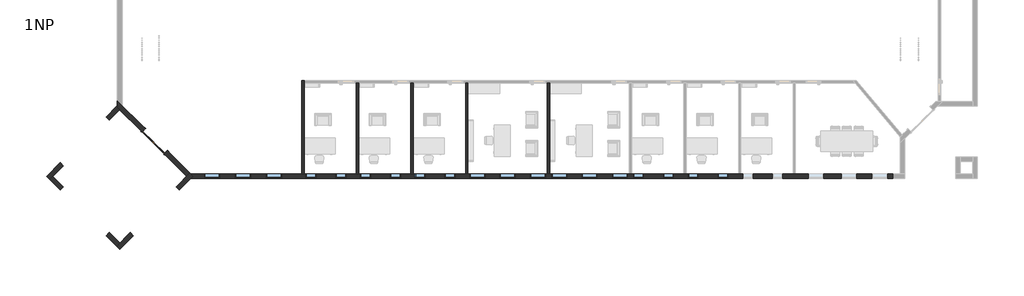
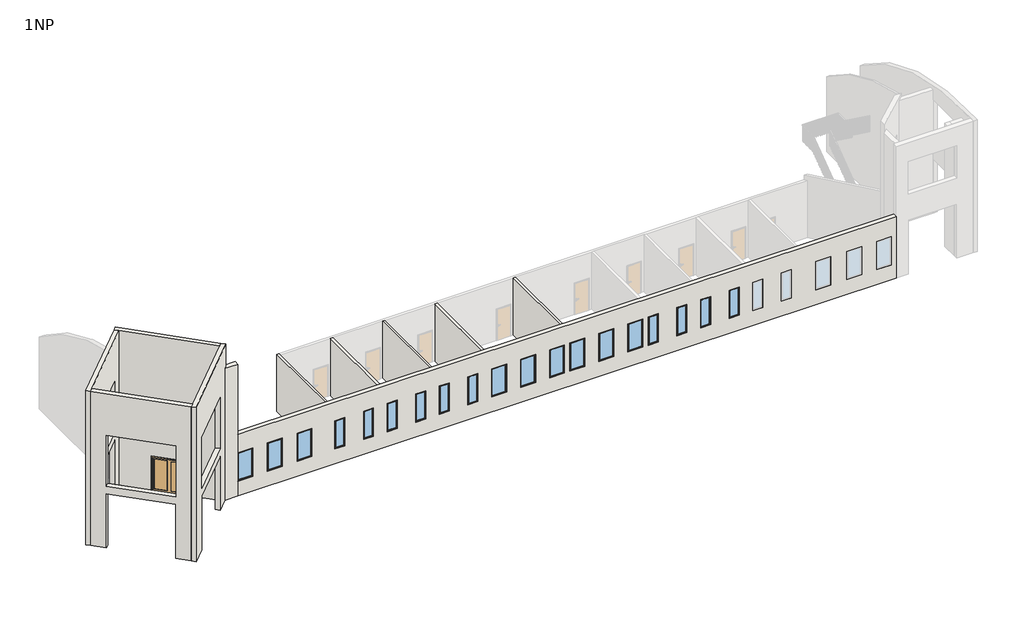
# One storey, part 1 of 3: 19 windows, 11 walls, 1 door.
"""IFC4 building model written with IfcOpenShell, lengths in millimetres."""

from ifc_helpers import new_model, si_unit, frame, origin, origin_with_axes, place, context, project, spatial, polyline, circle_curve, ellipse_curve, outline, extrude, faceted_brep, transform, mapped, element, save
from ifc_brep_helpers import plane_surface, cylinder_surface, advanced_brep
from components import door_1800_x_1970mm_ce9160c6, window_0610_x_1830mm_aeee110f, window_0915_x_1830mm_7ee91fd3

model = new_model("IFC4")

# Units and contexts
model_context = context("Model", 3, world=origin())
ifc_project = project(units=[si_unit("LENGTHUNIT", "METRE", prefix="MILLI")], contexts=[model_context])

# Site, building, storey
site = spatial("IfcSite", under=ifc_project)
building = spatial("IfcBuilding", under=site)
storey = spatial("IfcBuildingStorey", under=building, Name="1NP", Elevation=0.0)

# Door
placement = place(None, origin())
door_1800_x_1970mm_shape = door_1800_x_1970mm_ce9160c6(model_context)
element("IfcDoor", 1, ObjectType="Dvoukridle prosklene : 1800 x 1970mm", at=placement, inside=storey, context=model_context, shape_type="MappedRepresentation", body=[
    mapped(door_1800_x_1970mm_shape, transform((-9492.0310093, -2706.151406, 0.0), x_axis=(-0.7071067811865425, 0.7071067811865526, 0.0), y_axis=(-0.7071067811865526, -0.7071067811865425, 0.0), z_axis=(0.0, 0.0, 1.0))),
])

# Walls
element("IfcWall", 2, ObjectType="Exterior - EIFS on Mtl. Stud", at=placement, inside=storey, context=model_context, shape_type="AdvancedBrep", body=[
    advanced_brep(
    [(-6587.8076313, -4624.9448694, 0.0), (-7387.8076313, -4624.9448694, 0.0), (-7387.8076313, -4624.9448694, 8556.4380679), (-6587.8076313, -4624.9448694, 8556.4380679), (-6587.8076313, -4624.9448694, 8000.0), (-6587.8076313, -4624.9448694, 4000.0), (-6587.8076313, -4624.9448694, 2800.0), (-6595.0744727, -4624.9448694, 2800.0), (-6595.0744727, -4624.9448694, 970.0), (-6587.8076313, -4624.9448694, 970.0), (-7387.8076313, -4891.9448694, 0.0), (-6587.8076313, -4891.9448694, 0.0), (-6587.8076313, -4891.9448694, 970.0), (-6595.0744727, -4891.9448694, 970.0), (-6595.0744727, -4891.9448694, 2800.0), (-6587.8076313, -4891.9448694, 2800.0), (-6587.8076313, -4891.9448694, 4000.0), (-6587.8076313, -4891.9448694, 8000.0), (-6587.8076313, -4891.9448694, 8541.7849302), (-7387.8076313, -4891.9448694, 8541.7849302), (-7254.3076313, -4758.4448694, 0.0), (-7254.3076313, -4758.4448694, 8549.6141311)],
    [
        (0, 1),
        (1, 2),
        (2, 3),
        (3, 4),
        (4, 5),
        (5, 6),
        (6, 7),
        (7, 8),
        (8, 9),
        (9, 0),
        (10, 11),
        (11, 12),
        (12, 13),
        (13, 14),
        (14, 15),
        (15, 16),
        (16, 17),
        (17, 18),
        (18, 19),
        (19, 10),
        (0, 11),
        (10, 20),
        (20, 1),
        (9, 12),
        (3, 18, circle_curve(frame((-6587.8076313, -3782.5530793, -9232.9575956), z_axis=(1.0, 0.0, 0.0), x_axis=(0.0, -1.0, 0.0)), 17809.3296337)),
        (15, 6),
        (20, 21),
        (21, 2, ellipse_curve(frame((-8230.1994214, -3782.5530793, -9232.9575956), z_axis=(-0.7071067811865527, -0.7071067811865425, 0.0), x_axis=(0.7071067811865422, -0.7071067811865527, 0.0)), 25186.1955048, 17809.3296337)),
        (19, 21, ellipse_curve(frame((-6278.4158411, -3782.5530793, -9232.9575956), z_axis=(-0.7071067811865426, 0.7071067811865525, 0.0), x_axis=(0.7071067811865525, 0.7071067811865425, 0.0)), 25186.1955048, 17809.3296337)),
        (14, 7),
        (13, 8),
    ],
    [
        plane_surface(frame((12455.6755273, -4624.9448694, 0.0), z_axis=(0.0, 1.0, 0.0), x_axis=(-1.0, 0.0, 0.0))),
        plane_surface(frame((12455.6755273, -4891.9448694, 0.0), z_axis=(0.0, -1.0, 0.0), x_axis=(1.0, 0.0, 0.0))),
        plane_surface(frame((-6587.8076313, -4624.9448694, 0.0), z_axis=(0.0, 0.0, -1.0), x_axis=(0.0, -1.0, 0.0))),
        plane_surface(frame((-6587.8076313, -4624.9448694, 4000.0), z_axis=(1.0, 0.0, 0.0), x_axis=(0.0, -1.0, 0.0))),
        plane_surface(frame((-9352.1166743, -2660.6358263, -200.0), z_axis=(-0.7071067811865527, -0.7071067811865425, 0.0), x_axis=(0.7071067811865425, -0.7071067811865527, 0.0))),
        plane_surface(frame((-9352.1166743, -6856.2539125, -200.0), z_axis=(-0.7071067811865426, 0.7071067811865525, 0.0), x_axis=(-0.7071067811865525, -0.7071067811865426, 0.0))),
        cylinder_surface(frame((39922.6755273, -3782.5530793, -9232.9575956), z_axis=(1.0, 0.0, 0.0), x_axis=(0.0, -1.0, 0.0)), 17809.3296337),
        plane_surface(frame((-5680.0744727, -6148.9448694, 2800.0), z_axis=(0.0, 0.0, -1.0), x_axis=(0.0, 1.0, 0.0))),
        plane_surface(frame((-6595.0744727, -6148.9448694, 2800.0), z_axis=(1.0, 0.0, 0.0), x_axis=(0.0, 1.0, 0.0))),
        plane_surface(frame((-6595.0744727, -6148.9448694, 970.0), z_axis=(0.0, 0.0, 1.0), x_axis=(0.0, 1.0, 0.0))),
    ],
    [
        (0, [[1, 2, 3, 4, 5, 6, 7, 8, 9, 10]]),
        (1, [[11, 12, 13, 14, 15, 16, 17, 18, 19, 20]]),
        (2, [[-1, 21, -11, 22, 23]]),
        (3, [[-21, -10, 24, -12]]),
        (3, [[25, -18, -17, -16, 26, -6, -5, -4]]),
        (4, [[-2, -23, 27, 28]]),
        (5, [[-20, 29, -27, -22]]),
        (6, [[-3, -28, -29, -19, -25]]),
        (7, [[30, -7, -26, -15]]),
        (8, [[-30, -14, 31, -8]]),
        (9, [[-31, -13, -24, -9]]),
    ],
),
])
element("IfcWall", 3, ObjectType="Exterior - EIFS on Mtl. Stud", at=placement, inside=storey, context=model_context, shape_type="Brep", body=[
    faceted_brep([(33755.6755273, -4624.9448694, 0.0), (28058.4255273, -4624.9448694, 0.0), (27919.9255273, -4624.9448694, 0.0), (24858.4255273, -4624.9448694, 0.0), (24719.9255273, -4624.9448694, 0.0), (21658.4255273, -4624.9448694, 0.0), (21519.9255273, -4624.9448694, 0.0), (18458.4255273, -4624.9448694, 0.0), (18319.9255273, -4624.9448694, 0.0), (13658.4255273, -4624.9448694, 0.0), (13519.9255273, -4624.9448694, 0.0), (8858.4255273, -4624.9448694, 0.0), (8719.9255273, -4624.9448694, 0.0), (5658.4255273, -4624.9448694, 0.0), (5519.9255273, -4624.9448694, 0.0), (2458.4255273, -4624.9448694, 0.0), (2319.9255273, -4624.9448694, 0.0), (-741.5744727, -4624.9448694, 0.0), (-880.0744727, -4624.9448694, 0.0), (-6587.8076313, -4624.9448694, 0.0), (-6587.8076313, -4624.9448694, 970.0), (-5680.0744727, -4624.9448694, 970.0), (-5680.0744727, -4624.9448694, 2800.0), (-6587.8076313, -4624.9448694, 2800.0), (-6587.8076313, -4624.9448694, 4000.0), (33755.6755273, -4624.9448694, 4000.0), (33455.6755273, -4624.9448694, 970.0), (33455.6755273, -4624.9448694, 2800.0), (32540.6755273, -4624.9448694, 2800.0), (32540.6755273, -4624.9448694, 970.0), (31640.6755273, -4624.9448694, 970.0), (31640.6755273, -4624.9448694, 2800.0), (30725.6755273, -4624.9448694, 2800.0), (30725.6755273, -4624.9448694, 970.0), (29725.6755273, -4624.9448694, 970.0), (29725.6755273, -4624.9448694, 2800.0), (28810.6755273, -4624.9448694, 2800.0), (28810.6755273, -4624.9448694, 970.0), (-3865.0744727, -4624.9448694, 970.0), (-3865.0744727, -4624.9448694, 2800.0), (-4780.0744727, -4624.9448694, 2800.0), (-4780.0744727, -4624.9448694, 970.0), (-2050.0744727, -4624.9448694, 970.0), (-2050.0744727, -4624.9448694, 2800.0), (-2965.0744727, -4624.9448694, 2800.0), (-2965.0744727, -4624.9448694, 970.0), (-31.5744727, -4624.9448694, 970.0), (-31.5744727, -4624.9448694, 2800.0), (-641.5744727, -4624.9448694, 2800.0), (-641.5744727, -4624.9448694, 970.0), (1719.9255273, -4624.9448694, 970.0), (1719.9255273, -4624.9448694, 2800.0), (1109.9255273, -4624.9448694, 2800.0), (1109.9255273, -4624.9448694, 970.0), (3168.4255273, -4624.9448694, 970.0), (3168.4255273, -4624.9448694, 2800.0), (2558.4255273, -4624.9448694, 2800.0), (2558.4255273, -4624.9448694, 970.0), (4919.9255273, -4624.9448694, 970.0), (4919.9255273, -4624.9448694, 2800.0), (4309.9255273, -4624.9448694, 2800.0), (4309.9255273, -4624.9448694, 970.0), (25568.4255273, -4624.9448694, 970.0), (25568.4255273, -4624.9448694, 2800.0), (24958.4255273, -4624.9448694, 2800.0), (24958.4255273, -4624.9448694, 970.0), (27319.9255273, -4624.9448694, 970.0), (27319.9255273, -4624.9448694, 2800.0), (26709.9255273, -4624.9448694, 2800.0), (26709.9255273, -4624.9448694, 970.0), (22368.4255273, -4624.9448694, 970.0), (22368.4255273, -4624.9448694, 2800.0), (21758.4255273, -4624.9448694, 2800.0), (21758.4255273, -4624.9448694, 970.0), (24119.9255273, -4624.9448694, 970.0), (24119.9255273, -4624.9448694, 2800.0), (23509.9255273, -4624.9448694, 2800.0), (23509.9255273, -4624.9448694, 970.0), (19168.4255273, -4624.9448694, 970.0), (19168.4255273, -4624.9448694, 2800.0), (18558.4255273, -4624.9448694, 2800.0), (18558.4255273, -4624.9448694, 970.0), (20919.9255273, -4624.9448694, 970.0), (20919.9255273, -4624.9448694, 2800.0), (20309.9255273, -4624.9448694, 2800.0), (20309.9255273, -4624.9448694, 970.0), (9873.4255273, -4624.9448694, 970.0), (9873.4255273, -4624.9448694, 2800.0), (8958.4255273, -4624.9448694, 2800.0), (8958.4255273, -4624.9448694, 970.0), (11646.6755273, -4624.9448694, 970.0), (11646.6755273, -4624.9448694, 2800.0), (10731.6755273, -4624.9448694, 2800.0), (10731.6755273, -4624.9448694, 970.0), (6368.4255273, -4624.9448694, 970.0), (6368.4255273, -4624.9448694, 2800.0), (5758.4255273, -4624.9448694, 2800.0), (5758.4255273, -4624.9448694, 970.0), (8119.9255273, -4624.9448694, 970.0), (8119.9255273, -4624.9448694, 2800.0), (7509.9255273, -4624.9448694, 2800.0), (7509.9255273, -4624.9448694, 970.0), (13419.9255273, -4624.9448694, 970.0), (13419.9255273, -4624.9448694, 2800.0), (12504.9255273, -4624.9448694, 2800.0), (12504.9255273, -4624.9448694, 970.0), (14673.4255273, -4624.9448694, 970.0), (14673.4255273, -4624.9448694, 2800.0), (13758.4255273, -4624.9448694, 2800.0), (13758.4255273, -4624.9448694, 970.0), (16446.6755273, -4624.9448694, 970.0), (16446.6755273, -4624.9448694, 2800.0), (15531.6755273, -4624.9448694, 2800.0), (15531.6755273, -4624.9448694, 970.0), (18219.9255273, -4624.9448694, 970.0), (18219.9255273, -4624.9448694, 2800.0), (17304.9255273, -4624.9448694, 2800.0), (17304.9255273, -4624.9448694, 970.0), (-6587.8076313, -4891.9448694, 0.0), (33755.6755273, -4891.9448694, 0.0), (33755.6755273, -4891.9448694, 4000.0), (-6587.8076313, -4891.9448694, 4000.0), (-6587.8076313, -4891.9448694, 2800.0), (-5680.0744727, -4891.9448694, 2800.0), (-5680.0744727, -4891.9448694, 970.0), (-6587.8076313, -4891.9448694, 970.0), (33455.6755273, -4891.9448694, 2800.0), (33455.6755273, -4891.9448694, 970.0), (32540.6755273, -4891.9448694, 970.0), (32540.6755273, -4891.9448694, 2800.0), (31640.6755273, -4891.9448694, 2800.0), (31640.6755273, -4891.9448694, 970.0), (30725.6755273, -4891.9448694, 970.0), (30725.6755273, -4891.9448694, 2800.0), (29725.6755273, -4891.9448694, 2800.0), (29725.6755273, -4891.9448694, 970.0), (28810.6755273, -4891.9448694, 970.0), (28810.6755273, -4891.9448694, 2800.0), (-3865.0744727, -4891.9448694, 2800.0), (-3865.0744727, -4891.9448694, 970.0), (-4780.0744727, -4891.9448694, 970.0), (-4780.0744727, -4891.9448694, 2800.0), (-2050.0744727, -4891.9448694, 2800.0), (-2050.0744727, -4891.9448694, 970.0), (-2965.0744727, -4891.9448694, 970.0), (-2965.0744727, -4891.9448694, 2800.0), (-31.5744727, -4891.9448694, 2800.0), (-31.5744727, -4891.9448694, 970.0), (-641.5744727, -4891.9448694, 970.0), (-641.5744727, -4891.9448694, 2800.0), (1719.9255273, -4891.9448694, 2800.0), (1719.9255273, -4891.9448694, 970.0), (1109.9255273, -4891.9448694, 970.0), (1109.9255273, -4891.9448694, 2800.0), (3168.4255273, -4891.9448694, 2800.0), (3168.4255273, -4891.9448694, 970.0), (2558.4255273, -4891.9448694, 970.0), (2558.4255273, -4891.9448694, 2800.0), (4919.9255273, -4891.9448694, 2800.0), (4919.9255273, -4891.9448694, 970.0), (4309.9255273, -4891.9448694, 970.0), (4309.9255273, -4891.9448694, 2800.0), (25568.4255273, -4891.9448694, 2800.0), (25568.4255273, -4891.9448694, 970.0), (24958.4255273, -4891.9448694, 970.0), (24958.4255273, -4891.9448694, 2800.0), (27319.9255273, -4891.9448694, 2800.0), (27319.9255273, -4891.9448694, 970.0), (26709.9255273, -4891.9448694, 970.0), (26709.9255273, -4891.9448694, 2800.0), (22368.4255273, -4891.9448694, 2800.0), (22368.4255273, -4891.9448694, 970.0), (21758.4255273, -4891.9448694, 970.0), (21758.4255273, -4891.9448694, 2800.0), (24119.9255273, -4891.9448694, 2800.0), (24119.9255273, -4891.9448694, 970.0), (23509.9255273, -4891.9448694, 970.0), (23509.9255273, -4891.9448694, 2800.0), (19168.4255273, -4891.9448694, 2800.0), (19168.4255273, -4891.9448694, 970.0), (18558.4255273, -4891.9448694, 970.0), (18558.4255273, -4891.9448694, 2800.0), (20919.9255273, -4891.9448694, 2800.0), (20919.9255273, -4891.9448694, 970.0), (20309.9255273, -4891.9448694, 970.0), (20309.9255273, -4891.9448694, 2800.0), (9873.4255273, -4891.9448694, 2800.0), (9873.4255273, -4891.9448694, 970.0), (8958.4255273, -4891.9448694, 970.0), (8958.4255273, -4891.9448694, 2800.0), (11646.6755273, -4891.9448694, 2800.0), (11646.6755273, -4891.9448694, 970.0), (10731.6755273, -4891.9448694, 970.0), (10731.6755273, -4891.9448694, 2800.0), (6368.4255273, -4891.9448694, 2800.0), (6368.4255273, -4891.9448694, 970.0), (5758.4255273, -4891.9448694, 970.0), (5758.4255273, -4891.9448694, 2800.0), (8119.9255273, -4891.9448694, 2800.0), (8119.9255273, -4891.9448694, 970.0), (7509.9255273, -4891.9448694, 970.0), (7509.9255273, -4891.9448694, 2800.0), (13419.9255273, -4891.9448694, 2800.0), (13419.9255273, -4891.9448694, 970.0), (12504.9255273, -4891.9448694, 970.0), (12504.9255273, -4891.9448694, 2800.0), (14673.4255273, -4891.9448694, 970.0), (13758.4255273, -4891.9448694, 970.0), (13758.4255273, -4891.9448694, 2800.0), (14673.4255273, -4891.9448694, 2800.0), (16446.6755273, -4891.9448694, 970.0), (15531.6755273, -4891.9448694, 970.0), (15531.6755273, -4891.9448694, 2800.0), (16446.6755273, -4891.9448694, 2800.0), (18219.9255273, -4891.9448694, 970.0), (17304.9255273, -4891.9448694, 970.0), (17304.9255273, -4891.9448694, 2800.0), (18219.9255273, -4891.9448694, 2800.0)], [[[0, 1, 2, 3, 4, 5, 6, 7, 8, 9, 10, 11, 12, 13, 14, 15, 16, 17, 18, 19, 20, 21, 22, 23, 24, 25], [26, 27, 28, 29], [30, 31, 32, 33], [34, 35, 36, 37], [38, 39, 40, 41], [42, 43, 44, 45], [46, 47, 48, 49], [50, 51, 52, 53], [54, 55, 56, 57], [58, 59, 60, 61], [62, 63, 64, 65], [66, 67, 68, 69], [70, 71, 72, 73], [74, 75, 76, 77], [78, 79, 80, 81], [82, 83, 84, 85], [86, 87, 88, 89], [90, 91, 92, 93], [94, 95, 96, 97], [98, 99, 100, 101], [102, 103, 104, 105], [106, 107, 108, 109], [110, 111, 112, 113], [114, 115, 116, 117]], [[118, 119, 120, 121, 122, 123, 124, 125], [126, 127, 128, 129], [130, 131, 132, 133], [134, 135, 136, 137], [138, 139, 140, 141], [142, 143, 144, 145], [146, 147, 148, 149], [150, 151, 152, 153], [154, 155, 156, 157], [158, 159, 160, 161], [162, 163, 164, 165], [166, 167, 168, 169], [170, 171, 172, 173], [174, 175, 176, 177], [178, 179, 180, 181], [182, 183, 184, 185], [186, 187, 188, 189], [190, 191, 192, 193], [194, 195, 196, 197], [198, 199, 200, 201], [202, 203, 204, 205], [206, 207, 208, 209], [210, 211, 212, 213], [214, 215, 216, 217]], [[19, 18, 17, 16, 15, 14, 13, 12, 11, 10, 9, 8, 7, 6, 5, 4, 3, 2, 1, 0, 119, 118]], [[19, 118, 125, 20]], [[121, 24, 23, 122]], [[25, 24, 121, 120]], [[25, 120, 119, 0]], [[27, 26, 127, 126]], [[28, 27, 126, 129]], [[29, 28, 129, 128]], [[26, 29, 128, 127]], [[31, 30, 131, 130]], [[32, 31, 130, 133]], [[33, 32, 133, 132]], [[30, 33, 132, 131]], [[35, 34, 135, 134]], [[36, 35, 134, 137]], [[37, 36, 137, 136]], [[34, 37, 136, 135]], [[21, 124, 123, 22]], [[22, 123, 122, 23]], [[124, 21, 20, 125]], [[39, 38, 139, 138]], [[40, 39, 138, 141]], [[41, 40, 141, 140]], [[38, 41, 140, 139]], [[43, 42, 143, 142]], [[44, 43, 142, 145]], [[45, 44, 145, 144]], [[42, 45, 144, 143]], [[47, 46, 147, 146]], [[48, 47, 146, 149]], [[49, 48, 149, 148]], [[46, 49, 148, 147]], [[51, 50, 151, 150]], [[52, 51, 150, 153]], [[53, 52, 153, 152]], [[50, 53, 152, 151]], [[55, 54, 155, 154]], [[56, 55, 154, 157]], [[57, 56, 157, 156]], [[54, 57, 156, 155]], [[59, 58, 159, 158]], [[60, 59, 158, 161]], [[61, 60, 161, 160]], [[58, 61, 160, 159]], [[63, 62, 163, 162]], [[64, 63, 162, 165]], [[65, 64, 165, 164]], [[62, 65, 164, 163]], [[67, 66, 167, 166]], [[68, 67, 166, 169]], [[69, 68, 169, 168]], [[66, 69, 168, 167]], [[71, 70, 171, 170]], [[72, 71, 170, 173]], [[73, 72, 173, 172]], [[70, 73, 172, 171]], [[75, 74, 175, 174]], [[76, 75, 174, 177]], [[77, 76, 177, 176]], [[74, 77, 176, 175]], [[79, 78, 179, 178]], [[80, 79, 178, 181]], [[81, 80, 181, 180]], [[78, 81, 180, 179]], [[83, 82, 183, 182]], [[84, 83, 182, 185]], [[85, 84, 185, 184]], [[82, 85, 184, 183]], [[87, 86, 187, 186]], [[88, 87, 186, 189]], [[89, 88, 189, 188]], [[86, 89, 188, 187]], [[91, 90, 191, 190]], [[92, 91, 190, 193]], [[93, 92, 193, 192]], [[90, 93, 192, 191]], [[95, 94, 195, 194]], [[96, 95, 194, 197]], [[97, 96, 197, 196]], [[94, 97, 196, 195]], [[99, 98, 199, 198]], [[100, 99, 198, 201]], [[101, 100, 201, 200]], [[98, 101, 200, 199]], [[102, 203, 202, 103]], [[103, 202, 205, 104]], [[104, 205, 204, 105]], [[203, 102, 105, 204]], [[107, 106, 206, 209]], [[108, 107, 209, 208]], [[109, 108, 208, 207]], [[106, 109, 207, 206]], [[111, 110, 210, 213]], [[112, 111, 213, 212]], [[113, 112, 212, 211]], [[110, 113, 211, 210]], [[115, 114, 214, 217]], [[116, 115, 217, 216]], [[117, 116, 216, 215]], [[114, 117, 215, 214]]]),
])
element("IfcWall", 4, ObjectType="Exterior - EIFS on Mtl. Stud 2side", at=placement, inside=storey, context=model_context, shape_type="Brep", body=[
    faceted_brep([(-7443.1051418, -4569.6473588, 10000.0), (-7443.1051418, -4569.6473588, 0.0), (-7631.9026524, -4758.4448694, 0.0), (-8244.6106783, -5371.1528953, 0.0), (-8244.6106783, -5371.1528953, 3500.0), (-10931.6164468, -8058.1586638, 3500.0), (-10931.6164468, -8058.1586638, 0.0), (-11544.3244727, -8670.8666897, 0.0), (-11733.1219833, -8859.6642003, 0.0), (-11733.1219833, -8859.6642003, 10000.0), (-11544.3244727, -8670.8666897, 10000.0), (-7631.9026524, -4758.4448694, 10000.0), (-8244.6106783, -5371.1528953, 4000.0), (-8244.6106783, -5371.1528953, 7300.0), (-10931.6164468, -8058.1586638, 7300.0), (-10931.6164468, -8058.1586638, 4000.0), (-7254.3076313, -4758.4448694, 0.0), (-7254.3076313, -4758.4448694, 8549.6141311), (-7254.3076313, -4758.4448694, 10000.0), (-11544.3244727, -9048.4617109, 10000.0), (-11544.3244727, -9048.4617109, 0.0), (-10742.8189362, -8246.9561744, 0.0), (-10742.8189362, -8246.9561744, 3500.0), (-8055.8131677, -5559.9504059, 3500.0), (-8055.8131677, -5559.9504059, 0.0), (-7387.8076313, -4891.9448694, 0.0), (-8055.8131677, -5559.9504059, 4000.0), (-10742.8189362, -8246.9561744, 4000.0), (-10742.8189362, -8246.9561744, 7300.0), (-8055.8131677, -5559.9504059, 7300.0), (-7387.8076313, -4624.9448694, 0.0)], [[[0, 1, 2, 3, 4, 5, 6, 7, 8, 9, 10, 11], [12, 13, 14, 15]], [[16, 17, 18, 19, 20, 21, 22, 23, 24, 25], [26, 27, 28, 29]], [[3, 2, 1, 30, 16, 25, 24]], [[4, 3, 24, 23]], [[5, 4, 23, 22]], [[6, 5, 22, 21]], [[8, 7, 6, 21, 20]], [[0, 11, 10, 9, 19, 18]], [[13, 12, 26, 29]], [[14, 13, 29, 28]], [[15, 14, 28, 27]], [[12, 15, 27, 26]], [[0, 18, 17, 16, 30, 1]], [[9, 8, 20, 19]]]),
])
element("IfcWall", 5, ObjectType="Exterior - EIFS on Mtl. Stud 2side", at=placement, inside=storey, context=model_context, shape_type="Brep", body=[
    faceted_brep([(-7631.9026524, -4758.4448694, 10000.0), (-11544.3244727, -846.0230491, 10000.0), (-11733.1219833, -657.2255385, 10000.0), (-11733.1219833, -657.2255385, 8290.0514578), (-11677.8244727, -712.5230491, 8290.0514578), (-11677.8244727, -712.5230491, 0.0), (-11544.3244727, -846.0230491, 0.0), (-10235.1162674, -2155.2312545, 0.0), (-10235.1162674, -2155.2312545, 2134.0), (-8941.1108578, -3449.2366641, 2134.0), (-8941.1108578, -3449.2366641, 0.0), (-7631.9026524, -4758.4448694, 0.0), (-11544.3244727, -468.428028, 10000.0), (-7443.1051418, -4569.6473588, 10000.0), (-7443.1051418, -4569.6473588, 0.0), (-8752.3133472, -3260.4391535, 0.0), (-8752.3133472, -3260.4391535, 2134.0), (-10046.3187568, -1966.4337439, 2134.0), (-10046.3187568, -1966.4337439, 0.0), (-11410.8244727, -601.928028, 0.0), (-11677.8244727, -334.928028, 0.0), (-11677.8244727, -334.928028, 8239.4808006), (-11677.8244727, -334.928028, 8290.0514578), (-11544.3244727, -468.428028, 8290.0514578), (-11677.8244727, -601.928028, 0.0), (-11677.8244727, -601.928028, 8290.0514578)], [[[0, 1, 2, 3, 4, 5, 6, 7, 8, 9, 10, 11]], [[12, 13, 14, 15, 16, 17, 18, 19, 20, 21, 22, 23]], [[5, 24, 20, 19, 18, 7, 6]], [[14, 11, 10, 15]], [[2, 1, 0, 13, 12]], [[4, 3, 25]], [[5, 4, 25, 22, 21, 20, 24]], [[3, 2, 12, 23, 25]], [[23, 22, 25]], [[11, 14, 13, 0]], [[8, 7, 18, 17]], [[9, 8, 17, 16]], [[10, 9, 16, 15]]]),
])
element("IfcWall", 6, ObjectType="Exterior - EIFS on Mtl. Stud 2side", at=placement, inside=storey, context=model_context, shape_type="Brep", body=[
    faceted_brep([(-11677.8244727, -601.928028, 0.0), (-12345.8300092, -1269.9335644, 0.0), (-12345.8300092, -1269.9335644, 3500.0), (-15032.8357777, -3956.939333, 3500.0), (-15032.8357777, -3956.939333, 0.0), (-15834.3413142, -4758.4448694, 0.0), (-15834.3413142, -4758.4448694, 10000.0), (-11733.1219833, -657.2255385, 10000.0), (-11733.1219833, -657.2255385, 8290.0514578), (-11677.8244727, -601.928028, 8290.0514578), (-12345.8300092, -1269.9335644, 4000.0), (-12345.8300092, -1269.9335644, 7300.0), (-15032.8357777, -3956.939333, 7300.0), (-15032.8357777, -3956.939333, 4000.0), (-11544.3244727, -846.0230491, 0.0), (-11544.3244727, -846.0230491, 8290.0514578), (-11544.3244727, -846.0230491, 10000.0), (-15456.746293, -4758.4448694, 10000.0), (-15645.5438036, -4947.24238, 10000.0), (-15645.5438036, -4947.24238, 0.0), (-15456.746293, -4758.4448694, 0.0), (-14844.0382671, -4145.7368435, 0.0), (-14844.0382671, -4145.7368435, 3500.0), (-12157.0324986, -1458.731075, 3500.0), (-12157.0324986, -1458.731075, 0.0), (-12157.0324986, -1458.731075, 4000.0), (-14844.0382671, -4145.7368435, 4000.0), (-14844.0382671, -4145.7368435, 7300.0), (-12157.0324986, -1458.731075, 7300.0), (-11677.8244727, -712.5230491, 0.0), (-11677.8244727, -712.5230491, 8290.0514578)], [[[0, 1, 2, 3, 4, 5, 6, 7, 8, 9], [10, 11, 12, 13]], [[14, 15, 16, 17, 18, 19, 20, 21, 22, 23, 24], [25, 26, 27, 28]], [[1, 0, 29, 14, 24]], [[2, 1, 24, 23]], [[3, 2, 23, 22]], [[4, 3, 22, 21]], [[5, 4, 21, 20, 19]], [[7, 6, 18, 17, 16]], [[11, 10, 25, 28]], [[12, 11, 28, 27]], [[13, 12, 27, 26]], [[10, 13, 26, 25]], [[6, 5, 19, 18]], [[8, 30, 9]], [[0, 9, 30, 29]], [[30, 15, 14, 29]], [[8, 7, 16, 15, 30]]]),
])
element("IfcWall", 7, ObjectType="Exterior - EIFS on Mtl. Stud 2side", at=placement, inside=storey, context=model_context, shape_type="SweptSolid", body=[
    extrude(outline(polyline([(133.5, 0.0), (1000.0, 0.0), (1000.0, -3500.0), (4800.0, -3500.0), (4800.0, 0.0), (5666.5, 0.0), (5666.5, -10000.0), (133.5, -10000.0), (133.5, 0.0)]), holes=[polyline([(1000.0, -4000.0), (1000.0, -7300.0), (4800.0, -7300.0), (4800.0, -4000.0), (1000.0, -4000.0)])]), frame((-15739.9425589, -4852.8436247, 0.0), z_axis=(0.7071067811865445, 0.7071067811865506, 0.0), x_axis=(0.7071067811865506, -0.7071067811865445, 0.0)), (0.0, 0.0, 1.0), 267.0),
])
element("IfcWall", 8, ObjectType="Interior - 138mm Partition (1-hr)", at=placement, inside=storey, context=model_context, shape_type="Brep", body=[
    faceted_brep([(-741.5744727, -4624.9448694, 0.0), (-741.5744727, 722.3051306, 0.0), (-741.5744727, 860.8051306, 0.0), (-741.5744727, 860.8051306, 3700.0), (-741.5744727, 722.3051306, 3700.0), (-741.5744727, -4624.9448694, 3700.0), (-880.0744727, -4624.9448694, 0.0), (-880.0744727, -4624.9448694, 3700.0), (-880.0744727, 860.8051306, 3700.0), (-880.0744727, 860.8051306, 0.0)], [[[0, 1, 2, 3, 4, 5]], [[6, 7, 8, 9]], [[2, 1, 0, 6, 9]], [[5, 4, 3, 8, 7]], [[3, 2, 9, 8]], [[0, 5, 7, 6]]]),
])
element("IfcWall", 9, ObjectType="Interior - 138mm Partition (1-hr)", at=placement, inside=storey, context=model_context, shape_type="SweptSolid", body=[
    extrude(outline(polyline([(2458.4255273, 722.3051306), (2458.4255273, -4624.9448694), (2319.9255273, -4624.9448694), (2319.9255273, 722.3051306), (2458.4255273, 722.3051306)])), origin_with_axes(), (0.0, 0.0, 1.0), 3700.0),
])
element("IfcWall", 10, ObjectType="Interior - 138mm Partition (1-hr)", at=placement, inside=storey, context=model_context, shape_type="SweptSolid", body=[
    extrude(outline(polyline([(5658.4255273, 722.3051306), (5658.4255273, -4624.9448694), (5519.9255273, -4624.9448694), (5519.9255273, 722.3051306), (5658.4255273, 722.3051306)])), origin_with_axes(), (0.0, 0.0, 1.0), 3700.0),
])
element("IfcWall", 11, ObjectType="Interior - 138mm Partition (1-hr)", at=placement, inside=storey, context=model_context, shape_type="SweptSolid", body=[
    extrude(outline(polyline([(8858.4255273, 722.3051306), (8858.4255273, -4624.9448694), (8719.9255273, -4624.9448694), (8719.9255273, 722.3051306), (8858.4255273, 722.3051306)])), origin_with_axes(), (0.0, 0.0, 1.0), 3700.0),
])
element("IfcWall", 12, ObjectType="Interior - 138mm Partition (1-hr)", at=placement, inside=storey, context=model_context, shape_type="SweptSolid", body=[
    extrude(outline(polyline([(13658.4255273, 722.3051306), (13658.4255273, -4624.9448694), (13519.9255273, -4624.9448694), (13519.9255273, 722.3051306), (13658.4255273, 722.3051306)])), origin_with_axes(), (0.0, 0.0, 1.0), 3700.0),
])

# Windows
window_0610_x_1830mm_shape = window_0610_x_1830mm_aeee110f(model_context)
element("IfcWindow", 13, ObjectType="Pevne : 0610 x 1830mm", at=placement, inside=storey, context=model_context, shape_type="MappedRepresentation", body=[
    mapped(window_0610_x_1830mm_shape, transform((-336.5744727, -4745.4448694, 665.0), x_axis=(-1.0, 0.0, 0.0), y_axis=(0.0, -1.0, 0.0), z_axis=(0.0, 0.0, 1.0))),
])
element("IfcWindow", 14, ObjectType="Pevne : 0610 x 1830mm", at=placement, inside=storey, context=model_context, shape_type="MappedRepresentation", body=[
    mapped(window_0610_x_1830mm_shape, transform((1414.9255273, -4745.4448694, 665.0), x_axis=(-1.0, 0.0, 0.0), y_axis=(0.0, -1.0, 0.0), z_axis=(0.0, 0.0, 1.0))),
])
element("IfcWindow", 15, ObjectType="Pevne : 0610 x 1830mm", at=placement, inside=storey, context=model_context, shape_type="MappedRepresentation", body=[
    mapped(window_0610_x_1830mm_shape, transform((2863.4255273, -4745.4448694, 665.0), x_axis=(-1.0, 0.0, 0.0), y_axis=(0.0, -1.0, 0.0), z_axis=(0.0, 0.0, 1.0))),
])
element("IfcWindow", 16, ObjectType="Pevne : 0610 x 1830mm", at=placement, inside=storey, context=model_context, shape_type="MappedRepresentation", body=[
    mapped(window_0610_x_1830mm_shape, transform((4614.9255273, -4745.4448694, 665.0), x_axis=(-1.0, 0.0, 0.0), y_axis=(0.0, -1.0, 0.0), z_axis=(0.0, 0.0, 1.0))),
])
element("IfcWindow", 17, ObjectType="Pevne : 0610 x 1830mm", at=placement, inside=storey, context=model_context, shape_type="MappedRepresentation", body=[
    mapped(window_0610_x_1830mm_shape, transform((6063.4255273, -4745.4448694, 665.0), x_axis=(-1.0, 0.0, 0.0), y_axis=(0.0, -1.0, 0.0), z_axis=(0.0, 0.0, 1.0))),
])
element("IfcWindow", 18, ObjectType="Pevne : 0610 x 1830mm", at=placement, inside=storey, context=model_context, shape_type="MappedRepresentation", body=[
    mapped(window_0610_x_1830mm_shape, transform((7814.9255273, -4745.4448694, 665.0), x_axis=(-1.0, 0.0, 0.0), y_axis=(0.0, -1.0, 0.0), z_axis=(0.0, 0.0, 1.0))),
])
element("IfcWindow", 19, ObjectType="Pevne : 0610 x 1830mm", at=placement, inside=storey, context=model_context, shape_type="MappedRepresentation", body=[
    mapped(window_0610_x_1830mm_shape, transform((18863.4255273, -4745.4448694, 665.0), x_axis=(-1.0, 0.0, 0.0), y_axis=(0.0, -1.0, 0.0), z_axis=(0.0, 0.0, 1.0))),
])
element("IfcWindow", 20, ObjectType="Pevne : 0610 x 1830mm", at=placement, inside=storey, context=model_context, shape_type="MappedRepresentation", body=[
    mapped(window_0610_x_1830mm_shape, transform((20614.9255273, -4745.4448694, 665.0), x_axis=(-1.0, 0.0, 0.0), y_axis=(0.0, -1.0, 0.0), z_axis=(0.0, 0.0, 1.0))),
])
element("IfcWindow", 21, ObjectType="Pevne : 0610 x 1830mm", at=placement, inside=storey, context=model_context, shape_type="MappedRepresentation", body=[
    mapped(window_0610_x_1830mm_shape, transform((22063.4255273, -4745.4448694, 665.0), x_axis=(-1.0, 0.0, 0.0), y_axis=(0.0, -1.0, 0.0), z_axis=(0.0, 0.0, 1.0))),
])
element("IfcWindow", 22, ObjectType="Pevne : 0610 x 1830mm", at=placement, inside=storey, context=model_context, shape_type="MappedRepresentation", body=[
    mapped(window_0610_x_1830mm_shape, transform((23814.9255273, -4745.4448694, 665.0), x_axis=(-1.0, 0.0, 0.0), y_axis=(0.0, -1.0, 0.0), z_axis=(0.0, 0.0, 1.0))),
])
window_0915_x_1830mm_shape = window_0915_x_1830mm_7ee91fd3(model_context)
element("IfcWindow", 23, ObjectType="Pevne : 0915 x 1830mm", at=placement, inside=storey, context=model_context, shape_type="MappedRepresentation", body=[
    mapped(window_0915_x_1830mm_shape, transform((-6137.5744727, -4745.4448694, 665.0), x_axis=(-1.0, 0.0, 0.0), y_axis=(0.0, -1.0, 0.0), z_axis=(0.0, 0.0, 1.0))),
])
element("IfcWindow", 24, ObjectType="Pevne : 0915 x 1830mm", at=placement, inside=storey, context=model_context, shape_type="MappedRepresentation", body=[
    mapped(window_0915_x_1830mm_shape, transform((-4322.5744727, -4745.4448694, 665.0), x_axis=(-1.0, 0.0, 0.0), y_axis=(0.0, -1.0, 0.0), z_axis=(0.0, 0.0, 1.0))),
])
element("IfcWindow", 25, ObjectType="Pevne : 0915 x 1830mm", at=placement, inside=storey, context=model_context, shape_type="MappedRepresentation", body=[
    mapped(window_0915_x_1830mm_shape, transform((-2507.5744727, -4745.4448694, 665.0), x_axis=(-1.0, 0.0, 0.0), y_axis=(0.0, -1.0, 0.0), z_axis=(0.0, 0.0, 1.0))),
])
element("IfcWindow", 26, ObjectType="Pevne : 0915 x 1830mm", at=placement, inside=storey, context=model_context, shape_type="MappedRepresentation", body=[
    mapped(window_0915_x_1830mm_shape, transform((9415.9255273, -4745.4448694, 665.0), x_axis=(-1.0, 0.0, 0.0), y_axis=(0.0, -1.0, 0.0), z_axis=(0.0, 0.0, 1.0))),
])
element("IfcWindow", 27, ObjectType="Pevne : 0915 x 1830mm", at=placement, inside=storey, context=model_context, shape_type="MappedRepresentation", body=[
    mapped(window_0915_x_1830mm_shape, transform((11189.1755273, -4745.4448694, 665.0), x_axis=(-1.0, 0.0, 0.0), y_axis=(0.0, -1.0, 0.0), z_axis=(0.0, 0.0, 1.0))),
])
element("IfcWindow", 28, ObjectType="Pevne : 0915 x 1830mm", at=placement, inside=storey, context=model_context, shape_type="MappedRepresentation", body=[
    mapped(window_0915_x_1830mm_shape, transform((12962.4255273, -4745.4448694, 665.0), x_axis=(-1.0, 0.0, 0.0), y_axis=(0.0, -1.0, 0.0), z_axis=(0.0, 0.0, 1.0))),
])
element("IfcWindow", 29, ObjectType="Pevne : 0915 x 1830mm", at=placement, inside=storey, context=model_context, shape_type="MappedRepresentation", body=[
    mapped(window_0915_x_1830mm_shape, transform((14215.9255273, -4745.4448694, 665.0), x_axis=(-1.0, 0.0, 0.0), y_axis=(0.0, -1.0, 0.0), z_axis=(0.0, 0.0, 1.0))),
])
element("IfcWindow", 30, ObjectType="Pevne : 0915 x 1830mm", at=placement, inside=storey, context=model_context, shape_type="MappedRepresentation", body=[
    mapped(window_0915_x_1830mm_shape, transform((15989.1755273, -4745.4448694, 665.0), x_axis=(-1.0, 0.0, 0.0), y_axis=(0.0, -1.0, 0.0), z_axis=(0.0, 0.0, 1.0))),
])
element("IfcWindow", 31, ObjectType="Pevne : 0915 x 1830mm", at=placement, inside=storey, context=model_context, shape_type="MappedRepresentation", body=[
    mapped(window_0915_x_1830mm_shape, transform((17762.4255273, -4745.4448694, 665.0), x_axis=(-1.0, 0.0, 0.0), y_axis=(0.0, -1.0, 0.0), z_axis=(0.0, 0.0, 1.0))),
])

save(model, "model.ifc")
